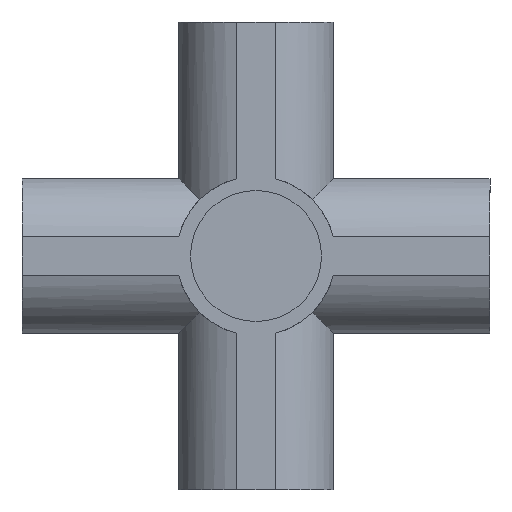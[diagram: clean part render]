
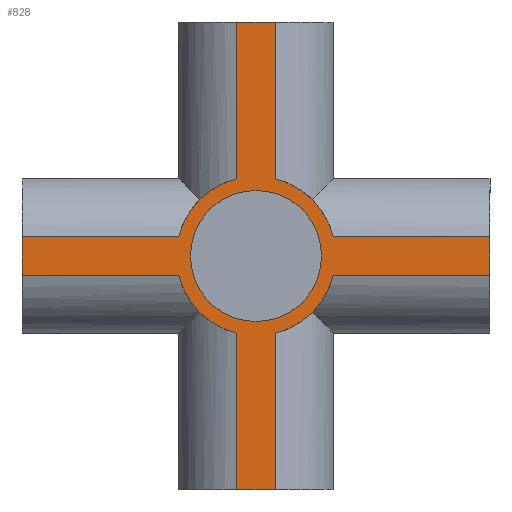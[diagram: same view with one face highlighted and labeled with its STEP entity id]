
A CAD part, front view. The second image highlights one B-rep face of the part: STEP entity #828.
In plain terms, the highlighted planar face has unit normal (0, -1, 0).
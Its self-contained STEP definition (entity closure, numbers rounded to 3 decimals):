
#1 = ORIENTED_EDGE ( 'NONE', *, *, #1368, .F. ) ;
#20 = VECTOR ( 'NONE', #1049, 1000. ) ;
#23 = ORIENTED_EDGE ( 'NONE', *, *, #804, .F. ) ;
#33 = VERTEX_POINT ( 'NONE', #922 ) ;
#38 = DIRECTION ( 'NONE',  ( 1., 0., 0. ) ) ;
#40 = DIRECTION ( 'NONE',  ( 0., 0., 1. ) ) ;
#52 = VERTEX_POINT ( 'NONE', #1268 ) ;
#60 = CARTESIAN_POINT ( 'NONE',  ( 16.5, -16.5, 4.093 ) ) ;
#97 = ORIENTED_EDGE ( 'NONE', *, *, #1087, .F. ) ;
#134 = CARTESIAN_POINT ( 'NONE',  ( -4.093, -16.5, 50.001 ) ) ;
#135 = EDGE_CURVE ( 'NONE', #857, #912, #1248, .T. ) ;
#157 = VECTOR ( 'NONE', #1258, 1000. ) ;
#161 = DIRECTION ( 'NONE',  ( 0., 1., 0. ) ) ;
#171 = LINE ( 'NONE', #661, #589 ) ;
#175 = LINE ( 'NONE', #768, #1235 ) ;
#179 = CIRCLE ( 'NONE', #1569, 17. ) ;
#217 = CARTESIAN_POINT ( 'NONE',  ( 0., -16.5, 0. ) ) ;
#231 = AXIS2_PLACEMENT_3D ( 'NONE', #217, #1445, #315 ) ;
#261 = EDGE_CURVE ( 'NONE', #1040, #328, #1306, .T. ) ;
#264 = CARTESIAN_POINT ( 'NONE',  ( -50., -16.5, 4.093 ) ) ;
#278 = CARTESIAN_POINT ( 'NONE',  ( 4.1, -16.5, -50. ) ) ;
#284 = CARTESIAN_POINT ( 'NONE',  ( 4.093, -16.5, 16.5 ) ) ;
#302 = VERTEX_POINT ( 'NONE', #635 ) ;
#315 = DIRECTION ( 'NONE',  ( 0., 0., 1. ) ) ;
#328 = VERTEX_POINT ( 'NONE', #664 ) ;
#340 = VECTOR ( 'NONE', #627, 1000. ) ;
#349 = DIRECTION ( 'NONE',  ( 0., 0., -1. ) ) ;
#356 = EDGE_CURVE ( 'NONE', #1185, #33, #179, .T. ) ;
#357 = LINE ( 'NONE', #134, #1344 ) ;
#364 = DIRECTION ( 'NONE',  ( 0., 0., 1. ) ) ;
#365 = EDGE_CURVE ( 'NONE', #1157, #1395, #905, .T. ) ;
#368 = EDGE_LOOP ( 'NONE', ( #737, #1327, #1273, #23, #537, #1260, #1301, #1052, #97, #1599, #806, #1, #939, #1386, #1345, #459 ) ) ;
#373 = VECTOR ( 'NONE', #1067, 1000. ) ;
#384 = VERTEX_POINT ( 'NONE', #264 ) ;
#385 = VERTEX_POINT ( 'NONE', #387 ) ;
#387 = CARTESIAN_POINT ( 'NONE',  ( -4.093, -16.5, 50. ) ) ;
#449 = EDGE_CURVE ( 'NONE', #1395, #1201, #1388, .T. ) ;
#450 = CIRCLE ( 'NONE', #1358, 14. ) ;
#459 = ORIENTED_EDGE ( 'NONE', *, *, #1059, .F. ) ;
#461 = FACE_OUTER_BOUND ( 'NONE', #368, .T. ) ;
#468 = LINE ( 'NONE', #1470, #490 ) ;
#469 = EDGE_CURVE ( 'NONE', #912, #857, #450, .T. ) ;
#490 = VECTOR ( 'NONE', #1196, 1000. ) ;
#517 = EDGE_CURVE ( 'NONE', #302, #1185, #1511, .T. ) ;
#520 = DIRECTION ( 'NONE',  ( 0., 1., 0. ) ) ;
#533 = CARTESIAN_POINT ( 'NONE',  ( 0., -16.5, 0. ) ) ;
#537 = ORIENTED_EDGE ( 'NONE', *, *, #261, .F. ) ;
#546 = CARTESIAN_POINT ( 'NONE',  ( 4.093, -16.5, -17.001 ) ) ;
#575 = PLANE ( 'NONE',  #1084 ) ;
#587 = CARTESIAN_POINT ( 'NONE',  ( 0., -16.5, 0. ) ) ;
#589 = VECTOR ( 'NONE', #38, 1000. ) ;
#598 = ORIENTED_EDGE ( 'NONE', *, *, #135, .F. ) ;
#627 = DIRECTION ( 'NONE',  ( -1., 0., 0. ) ) ;
#635 = CARTESIAN_POINT ( 'NONE',  ( 50., -16.5, -4.093 ) ) ;
#658 = VERTEX_POINT ( 'NONE', #1613 ) ;
#661 = CARTESIAN_POINT ( 'NONE',  ( 17.001, -16.5, 4.093 ) ) ;
#664 = CARTESIAN_POINT ( 'NONE',  ( -4.093, -16.5, 16.5 ) ) ;
#687 = DIRECTION ( 'NONE',  ( 0., -1., 0. ) ) ;
#693 = CARTESIAN_POINT ( 'NONE',  ( 0., -16.5, 14. ) ) ;
#706 = EDGE_CURVE ( 'NONE', #52, #1032, #1020, .T. ) ;
#710 = VERTEX_POINT ( 'NONE', #1545 ) ;
#711 = CARTESIAN_POINT ( 'NONE',  ( 4.093, -16.5, 50. ) ) ;
#729 = CARTESIAN_POINT ( 'NONE',  ( 0., -16.5, 0. ) ) ;
#736 = CARTESIAN_POINT ( 'NONE',  ( -17.001, -16.5, -4.093 ) ) ;
#737 = ORIENTED_EDGE ( 'NONE', *, *, #449, .F. ) ;
#768 = CARTESIAN_POINT ( 'NONE',  ( 50., -16.5, 4.1 ) ) ;
#769 = EDGE_CURVE ( 'NONE', #384, #1040, #171, .T. ) ;
#776 = DIRECTION ( 'NONE',  ( 1., 0., 0. ) ) ;
#795 = CARTESIAN_POINT ( 'NONE',  ( 0., -16.5, 0. ) ) ;
#798 = CARTESIAN_POINT ( 'NONE',  ( -16.5, -16.5, 4.093 ) ) ;
#804 = EDGE_CURVE ( 'NONE', #328, #385, #1320, .T. ) ;
#806 = ORIENTED_EDGE ( 'NONE', *, *, #706, .T. ) ;
#814 = AXIS2_PLACEMENT_3D ( 'NONE', #1090, #1506, #349 ) ;
#828 = ADVANCED_FACE ( 'NONE', ( #1330, #461 ), #575, .F. ) ;
#833 = ORIENTED_EDGE ( 'NONE', *, *, #469, .F. ) ;
#834 = EDGE_CURVE ( 'NONE', #384, #658, #468, .T. ) ;
#857 = VERTEX_POINT ( 'NONE', #693 ) ;
#887 = LINE ( 'NONE', #1616, #340 ) ;
#898 = CARTESIAN_POINT ( 'NONE',  ( 0., -16.5, -14. ) ) ;
#905 = LINE ( 'NONE', #546, #1148 ) ;
#906 = DIRECTION ( 'NONE',  ( 0., 0., 1. ) ) ;
#912 = VERTEX_POINT ( 'NONE', #898 ) ;
#922 = CARTESIAN_POINT ( 'NONE',  ( 4.093, -16.5, -16.5 ) ) ;
#939 = ORIENTED_EDGE ( 'NONE', *, *, #356, .F. ) ;
#960 = EDGE_CURVE ( 'NONE', #52, #1072, #357, .T. ) ;
#973 = DIRECTION ( 'NONE',  ( 0., 1., 0. ) ) ;
#979 = VECTOR ( 'NONE', #776, 1000. ) ;
#982 = EDGE_LOOP ( 'NONE', ( #833, #598 ) ) ;
#994 = LINE ( 'NONE', #1498, #1449 ) ;
#1020 = LINE ( 'NONE', #278, #20 ) ;
#1032 = VERTEX_POINT ( 'NONE', #1551 ) ;
#1040 = VERTEX_POINT ( 'NONE', #798 ) ;
#1049 = DIRECTION ( 'NONE',  ( 1., 0., 0. ) ) ;
#1052 = ORIENTED_EDGE ( 'NONE', *, *, #1525, .F. ) ;
#1059 = EDGE_CURVE ( 'NONE', #1201, #710, #1393, .T. ) ;
#1067 = DIRECTION ( 'NONE',  ( -1., 0., 0. ) ) ;
#1072 = VERTEX_POINT ( 'NONE', #1144 ) ;
#1079 = CARTESIAN_POINT ( 'NONE',  ( -4.093, -16.5, -17.001 ) ) ;
#1084 = AXIS2_PLACEMENT_3D ( 'NONE', #587, #973, #1209 ) ;
#1087 = EDGE_CURVE ( 'NONE', #1072, #1628, #1604, .T. ) ;
#1090 = CARTESIAN_POINT ( 'NONE',  ( 0., -16.5, 0. ) ) ;
#1125 = DIRECTION ( 'NONE',  ( 0., 0., -1. ) ) ;
#1144 = CARTESIAN_POINT ( 'NONE',  ( -4.093, -16.5, -16.5 ) ) ;
#1148 = VECTOR ( 'NONE', #1149, 1000. ) ;
#1149 = DIRECTION ( 'NONE',  ( 0., 0., -1. ) ) ;
#1157 = VERTEX_POINT ( 'NONE', #711 ) ;
#1158 = CARTESIAN_POINT ( 'NONE',  ( 0., -16.5, 0. ) ) ;
#1167 = DIRECTION ( 'NONE',  ( 0., 1., 0. ) ) ;
#1169 = DIRECTION ( 'NONE',  ( 0., 0., 1. ) ) ;
#1185 = VERTEX_POINT ( 'NONE', #1448 ) ;
#1192 = CARTESIAN_POINT ( 'NONE',  ( 17.001, -16.5, -4.093 ) ) ;
#1193 = VECTOR ( 'NONE', #1566, 1000. ) ;
#1196 = DIRECTION ( 'NONE',  ( 0., 0., -1. ) ) ;
#1201 = VERTEX_POINT ( 'NONE', #60 ) ;
#1209 = DIRECTION ( 'NONE',  ( 0., 0., 1. ) ) ;
#1223 = DIRECTION ( 'NONE',  ( 0., 0., -1. ) ) ;
#1235 = VECTOR ( 'NONE', #906, 1000. ) ;
#1248 = CIRCLE ( 'NONE', #814, 14. ) ;
#1258 = DIRECTION ( 'NONE',  ( -1., 0., 0. ) ) ;
#1260 = ORIENTED_EDGE ( 'NONE', *, *, #769, .F. ) ;
#1268 = CARTESIAN_POINT ( 'NONE',  ( -4.093, -16.5, -50. ) ) ;
#1272 = CARTESIAN_POINT ( 'NONE',  ( -17.001, -16.5, 4.093 ) ) ;
#1273 = ORIENTED_EDGE ( 'NONE', *, *, #1290, .T. ) ;
#1290 = EDGE_CURVE ( 'NONE', #1157, #385, #887, .T. ) ;
#1291 = DIRECTION ( 'NONE',  ( 0., 0., 1. ) ) ;
#1301 = ORIENTED_EDGE ( 'NONE', *, *, #834, .T. ) ;
#1306 = CIRCLE ( 'NONE', #1490, 17. ) ;
#1320 = LINE ( 'NONE', #1079, #1193 ) ;
#1327 = ORIENTED_EDGE ( 'NONE', *, *, #365, .F. ) ;
#1330 = FACE_BOUND ( 'NONE', #982, .T. ) ;
#1332 = AXIS2_PLACEMENT_3D ( 'NONE', #533, #161, #1169 ) ;
#1344 = VECTOR ( 'NONE', #364, 1000. ) ;
#1345 = ORIENTED_EDGE ( 'NONE', *, *, #1485, .T. ) ;
#1358 = AXIS2_PLACEMENT_3D ( 'NONE', #729, #687, #1223 ) ;
#1368 = EDGE_CURVE ( 'NONE', #33, #1032, #994, .T. ) ;
#1378 = CARTESIAN_POINT ( 'NONE',  ( -16.5, -16.5, -4.093 ) ) ;
#1386 = ORIENTED_EDGE ( 'NONE', *, *, #517, .F. ) ;
#1388 = CIRCLE ( 'NONE', #231, 17. ) ;
#1393 = LINE ( 'NONE', #1272, #979 ) ;
#1395 = VERTEX_POINT ( 'NONE', #284 ) ;
#1439 = LINE ( 'NONE', #1192, #373 ) ;
#1445 = DIRECTION ( 'NONE',  ( 0., 1., 0. ) ) ;
#1448 = CARTESIAN_POINT ( 'NONE',  ( 16.5, -16.5, -4.093 ) ) ;
#1449 = VECTOR ( 'NONE', #1125, 1000. ) ;
#1470 = CARTESIAN_POINT ( 'NONE',  ( -50., -16.5, -4.1 ) ) ;
#1485 = EDGE_CURVE ( 'NONE', #302, #710, #175, .T. ) ;
#1490 = AXIS2_PLACEMENT_3D ( 'NONE', #1158, #520, #1291 ) ;
#1498 = CARTESIAN_POINT ( 'NONE',  ( 4.093, -16.5, 50.001 ) ) ;
#1506 = DIRECTION ( 'NONE',  ( 0., -1., 0. ) ) ;
#1511 = LINE ( 'NONE', #736, #157 ) ;
#1525 = EDGE_CURVE ( 'NONE', #1628, #658, #1439, .T. ) ;
#1545 = CARTESIAN_POINT ( 'NONE',  ( 50., -16.5, 4.093 ) ) ;
#1551 = CARTESIAN_POINT ( 'NONE',  ( 4.093, -16.5, -50. ) ) ;
#1566 = DIRECTION ( 'NONE',  ( 0., 0., 1. ) ) ;
#1569 = AXIS2_PLACEMENT_3D ( 'NONE', #795, #1167, #40 ) ;
#1599 = ORIENTED_EDGE ( 'NONE', *, *, #960, .F. ) ;
#1604 = CIRCLE ( 'NONE', #1332, 17. ) ;
#1613 = CARTESIAN_POINT ( 'NONE',  ( -50., -16.5, -4.093 ) ) ;
#1616 = CARTESIAN_POINT ( 'NONE',  ( -4.1, -16.5, 50. ) ) ;
#1628 = VERTEX_POINT ( 'NONE', #1378 ) ;
